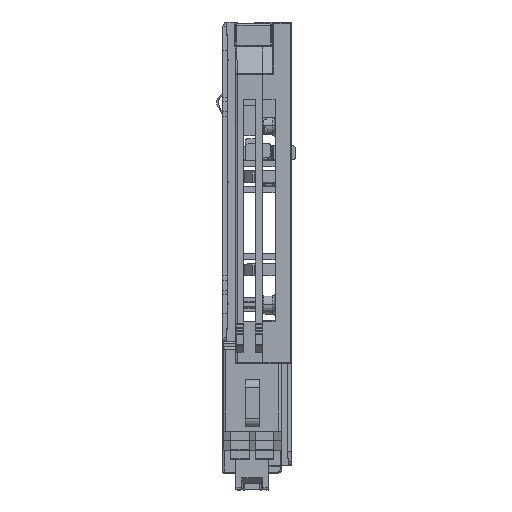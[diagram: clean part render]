
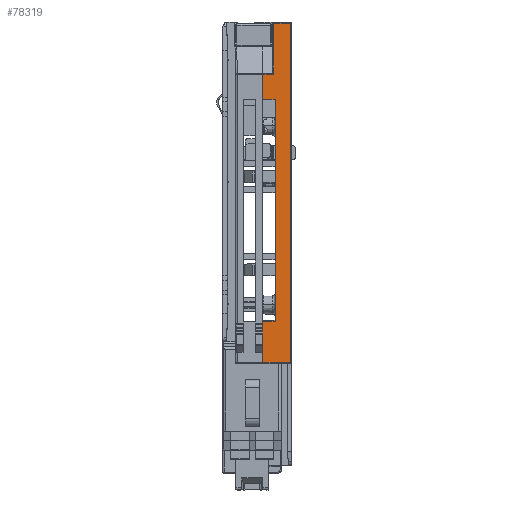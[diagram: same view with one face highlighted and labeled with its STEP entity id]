
A CAD part, left-side view. The second image highlights one B-rep face of the part: STEP entity #78319.
In plain terms, the highlighted planar face has unit normal (-1, 0, 0).
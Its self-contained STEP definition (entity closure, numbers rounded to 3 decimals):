
#3163 = CARTESIAN_POINT ( 'NONE',  ( -52.5, -1.9, 48.9 ) ) ;
#3975 = LINE ( 'NONE', #157738, #114247 ) ;
#4323 = ORIENTED_EDGE ( 'NONE', *, *, #113567, .F. ) ;
#8390 = VERTEX_POINT ( 'NONE', #58732 ) ;
#12291 = VERTEX_POINT ( 'NONE', #127206 ) ;
#13741 = CARTESIAN_POINT ( 'NONE',  ( -52.5, 1.7, 48.9 ) ) ;
#14752 = CARTESIAN_POINT ( 'NONE',  ( -52.5, 4., -14.4 ) ) ;
#16099 = VERTEX_POINT ( 'NONE', #73918 ) ;
#17050 = ORIENTED_EDGE ( 'NONE', *, *, #72856, .F. ) ;
#21280 = VECTOR ( 'NONE', #123155, 1000. ) ;
#21629 = ORIENTED_EDGE ( 'NONE', *, *, #91717, .T. ) ;
#32488 = VECTOR ( 'NONE', #187809, 1000. ) ;
#34546 = LINE ( 'NONE', #201512, #21280 ) ;
#35544 = DIRECTION ( 'NONE',  ( 0., -1., 0. ) ) ;
#36252 = DIRECTION ( 'NONE',  ( 0., 1., 0. ) ) ;
#40825 = ORIENTED_EDGE ( 'NONE', *, *, #52122, .T. ) ;
#42479 = CARTESIAN_POINT ( 'NONE',  ( -52.5, 1.4, -14.4 ) ) ;
#42743 = CARTESIAN_POINT ( 'NONE',  ( -52.5, 1.7, 38.122 ) ) ;
#45476 = VECTOR ( 'NONE', #179852, 1000. ) ;
#47316 = EDGE_CURVE ( 'NONE', #117194, #16099, #145158, .T. ) ;
#52122 = EDGE_CURVE ( 'NONE', #71342, #186396, #170989, .T. ) ;
#54397 = CARTESIAN_POINT ( 'NONE',  ( -52.5, 4., 32.7 ) ) ;
#58732 = CARTESIAN_POINT ( 'NONE',  ( -52.5, 4., -14.4 ) ) ;
#60776 = VERTEX_POINT ( 'NONE', #54397 ) ;
#60999 = DIRECTION ( 'NONE',  ( 0., 0., 1. ) ) ;
#68363 = CARTESIAN_POINT ( 'NONE',  ( -52.5, 1.4, 32.7 ) ) ;
#71342 = VERTEX_POINT ( 'NONE', #106045 ) ;
#72856 = EDGE_CURVE ( 'NONE', #117194, #12291, #200457, .T. ) ;
#73918 = CARTESIAN_POINT ( 'NONE',  ( -52.5, 4., 38.122 ) ) ;
#78319 = ADVANCED_FACE ( 'NONE', ( #133767 ), #134769, .T. ) ;
#85706 = CARTESIAN_POINT ( 'NONE',  ( -52.5, 1.4, 32.7 ) ) ;
#88981 = VECTOR ( 'NONE', #36252, 1000. ) ;
#90293 = VERTEX_POINT ( 'NONE', #3163 ) ;
#91717 = EDGE_CURVE ( 'NONE', #60776, #104363, #3975, .T. ) ;
#97079 = CARTESIAN_POINT ( 'NONE',  ( -52.5, -1.9, -23.2 ) ) ;
#100973 = DIRECTION ( 'NONE',  ( 0., 0., -1. ) ) ;
#101297 = ORIENTED_EDGE ( 'NONE', *, *, #163628, .T. ) ;
#104363 = VERTEX_POINT ( 'NONE', #68363 ) ;
#105284 = LINE ( 'NONE', #184606, #188614 ) ;
#106045 = CARTESIAN_POINT ( 'NONE',  ( -52.5, 4., -23.2 ) ) ;
#106265 = DIRECTION ( 'NONE',  ( 0., 0., 1. ) ) ;
#106398 = EDGE_CURVE ( 'NONE', #90293, #186396, #193140, .T. ) ;
#106832 = ORIENTED_EDGE ( 'NONE', *, *, #182623, .F. ) ;
#106888 = EDGE_CURVE ( 'NONE', #71342, #8390, #105284, .T. ) ;
#107402 = DIRECTION ( 'NONE',  ( 0., -1., 0. ) ) ;
#111027 = VECTOR ( 'NONE', #60999, 1000. ) ;
#113567 = EDGE_CURVE ( 'NONE', #12291, #90293, #168468, .T. ) ;
#114247 = VECTOR ( 'NONE', #35544, 1000. ) ;
#115089 = VECTOR ( 'NONE', #100973, 1000. ) ;
#117194 = VERTEX_POINT ( 'NONE', #177738 ) ;
#118486 = DIRECTION ( 'NONE',  ( 0., 0., 1. ) ) ;
#118652 = ORIENTED_EDGE ( 'NONE', *, *, #124702, .T. ) ;
#123155 = DIRECTION ( 'NONE',  ( 0., 0., -1. ) ) ;
#124702 = EDGE_CURVE ( 'NONE', #16099, #60776, #34546, .T. ) ;
#127206 = CARTESIAN_POINT ( 'NONE',  ( -52.5, 1.7, 48.9 ) ) ;
#133767 = FACE_OUTER_BOUND ( 'NONE', #168366, .T. ) ;
#134769 = PLANE ( 'NONE',  #199785 ) ;
#135044 = CARTESIAN_POINT ( 'NONE',  ( -52.5, -1.9, 48.9 ) ) ;
#139446 = CARTESIAN_POINT ( 'NONE',  ( -52.5, 4., -23.2 ) ) ;
#139587 = VECTOR ( 'NONE', #201516, 1000. ) ;
#144162 = CARTESIAN_POINT ( 'NONE',  ( -52.5, 1.7, 38.122 ) ) ;
#145158 = LINE ( 'NONE', #144162, #88981 ) ;
#147358 = ORIENTED_EDGE ( 'NONE', *, *, #106888, .F. ) ;
#148784 = LINE ( 'NONE', #85706, #115089 ) ;
#150043 = DIRECTION ( 'NONE',  ( -1., 0., 0. ) ) ;
#154287 = LINE ( 'NONE', #14752, #32488 ) ;
#157738 = CARTESIAN_POINT ( 'NONE',  ( -52.5, 4., 32.7 ) ) ;
#157913 = ORIENTED_EDGE ( 'NONE', *, *, #106398, .F. ) ;
#163628 = EDGE_CURVE ( 'NONE', #104363, #191883, #148784, .T. ) ;
#164304 = CARTESIAN_POINT ( 'NONE',  ( -52.5, 0., -43.9 ) ) ;
#168366 = EDGE_LOOP ( 'NONE', ( #157913, #4323, #17050, #175165, #118652, #21629, #101297, #106832, #147358, #40825 ) ) ;
#168468 = LINE ( 'NONE', #13741, #181448 ) ;
#170989 = LINE ( 'NONE', #139446, #139587 ) ;
#175165 = ORIENTED_EDGE ( 'NONE', *, *, #47316, .T. ) ;
#177738 = CARTESIAN_POINT ( 'NONE',  ( -52.5, 1.7, 38.122 ) ) ;
#179852 = DIRECTION ( 'NONE',  ( 0., 0., -1. ) ) ;
#181448 = VECTOR ( 'NONE', #107402, 1000. ) ;
#182623 = EDGE_CURVE ( 'NONE', #8390, #191883, #154287, .T. ) ;
#184606 = CARTESIAN_POINT ( 'NONE',  ( -52.5, 4., -23.2 ) ) ;
#186396 = VERTEX_POINT ( 'NONE', #97079 ) ;
#187809 = DIRECTION ( 'NONE',  ( 0., -1., 0. ) ) ;
#188614 = VECTOR ( 'NONE', #106265, 1000. ) ;
#191883 = VERTEX_POINT ( 'NONE', #42479 ) ;
#193140 = LINE ( 'NONE', #135044, #45476 ) ;
#199785 = AXIS2_PLACEMENT_3D ( 'NONE', #164304, #150043, #118486 ) ;
#200457 = LINE ( 'NONE', #42743, #111027 ) ;
#201512 = CARTESIAN_POINT ( 'NONE',  ( -52.5, 4., 38.122 ) ) ;
#201516 = DIRECTION ( 'NONE',  ( 0., -1., 0. ) ) ;
